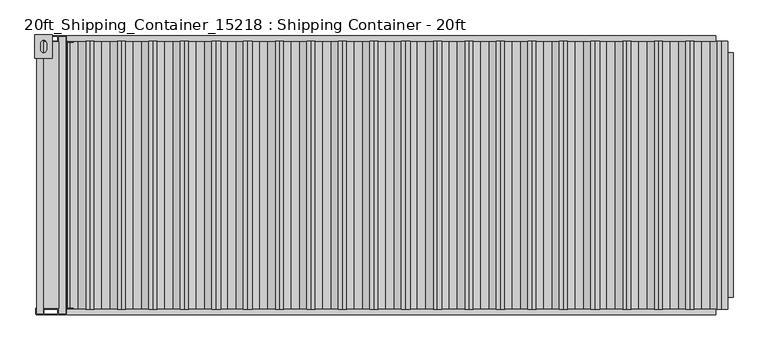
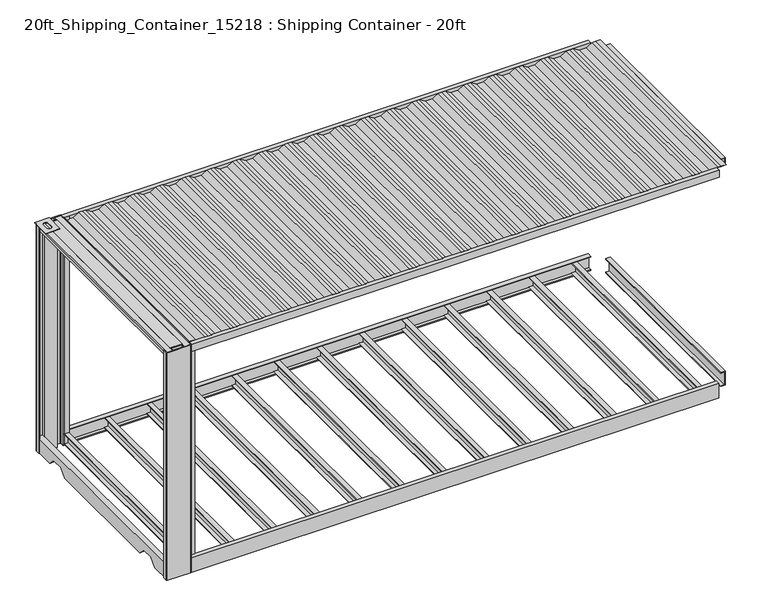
"""IFC4 building model written with IfcOpenShell, lengths in millimetres: proxy geometry, 20ft_Shipping_Container_15218 : Shipping Container - 20ft."""

from ifc_helpers import new_model, si_unit, point, frame, frame_2d, origin, place, context, project, spatial, polyline, circle_curve, trimmed, segment, composite_curve, outline, extrude, source, transform, mapped, element, save


def proxy_20ft_shipping_container_15218_shipping_container_20ft_651b6a02(model_context):
    return source(origin(), model_context, "Body", "SweptSolid", [
        extrude(outline(polyline([(-6102.35, 1225.55), (-5949.95, 1225.55), (-5949.95, 1022.35), (-6102.35, 1022.35), (-6102.35, 1225.55)]), holes=[composite_curve([segment(polyline([(-6051.55, 1151.463327), (-6051.55, 1096.436673)]), True, "CONTINUOUS"), segment(trimmed(circle_curve(frame_2d((-6026.15, 1096.436673)), 25.4), [point((-6051.55, 1096.436673))], [point((-6000.75, 1096.436673))], True, "CARTESIAN"), True, "CONTINUOUS"), segment(polyline([(-6000.75, 1096.436673), (-6000.75, 1151.463327)]), True, "CONTINUOUS"), segment(trimmed(circle_curve(frame_2d((-6026.15, 1151.463327)), 25.4), [point((-6000.75, 1151.463327))], [point((-6051.55, 1151.463327))], True, "CARTESIAN"), True, "CONTINUOUS")], self_intersect=False)]), frame((0.0, 0.0, 2597.15), z_axis=(0.0, 0.0, 1.0), x_axis=(1.0, 0.0, 0.0)), (0.0, 0.0, 1.0), 6.35),
        extrude(outline(polyline([(2597.15, -6086.475), (2571.75, -6086.475), (2571.75, -6073.775), (2520.95, -6073.775), (2520.95, -6029.325), (2597.15, -6029.325), (2597.15, -6086.475)]), holes=[polyline([(2590.8, -6080.125), (2590.8, -6035.675), (2527.3, -6035.675), (2527.3, -6067.425), (2578.1, -6067.425), (2578.1, -6080.125), (2590.8, -6080.125)])]), frame((0.0, -1209.675, 0.0), z_axis=(0.0, 1.0, 0.0), x_axis=(0.0, 0.0, 1.0)), (0.0, 0.0, 1.0), 2419.35),
        extrude(outline(polyline([(136.525, -5773.7287175), (136.525, -5824.5287175), (130.175, -5824.5287175), (130.175, -5780.0787175), (22.225, -5780.0787175), (22.225, -5824.5287175), (15.875, -5824.5287175), (15.875, -5773.7287175), (136.525, -5773.7287175)])), frame((0.0, -1209.675, 0.0), z_axis=(0.0, 1.0, 0.0), x_axis=(0.0, 0.0, 1.0)), (0.0, 0.0, 1.0), 2419.35),
        extrude(outline(polyline([(136.525, -5316.5287175), (136.525, -5367.3287175), (130.175, -5367.3287175), (130.175, -5322.8787175), (22.225, -5322.8787175), (22.225, -5367.3287175), (15.875, -5367.3287175), (15.875, -5316.5287175), (136.525, -5316.5287175)])), frame((0.0, -1209.675, 0.0), z_axis=(0.0, 1.0, 0.0), x_axis=(0.0, 0.0, 1.0)), (0.0, 0.0, 1.0), 2419.35),
        extrude(outline(polyline([(136.525, -4859.3287175), (136.525, -4910.1287175), (130.175, -4910.1287175), (130.175, -4865.6787175), (22.225, -4865.6787175), (22.225, -4910.1287175), (15.875, -4910.1287175), (15.875, -4859.3287175), (136.525, -4859.3287175)])), frame((0.0, -1209.675, 0.0), z_axis=(0.0, 1.0, 0.0), x_axis=(0.0, 0.0, 1.0)), (0.0, 0.0, 1.0), 2419.35),
        extrude(outline(polyline([(136.525, -4402.1287175), (136.525, -4452.9287175), (130.175, -4452.9287175), (130.175, -4408.4787175), (22.225, -4408.4787175), (22.225, -4452.9287175), (15.875, -4452.9287175), (15.875, -4402.1287175), (136.525, -4402.1287175)])), frame((0.0, -1209.675, 0.0), z_axis=(0.0, 1.0, 0.0), x_axis=(0.0, 0.0, 1.0)), (0.0, 0.0, 1.0), 2419.35),
        extrude(outline(polyline([(136.525, -3944.9287175), (136.525, -3995.7287175), (130.175, -3995.7287175), (130.175, -3951.2787175), (22.225, -3951.2787175), (22.225, -3995.7287175), (15.875, -3995.7287175), (15.875, -3944.9287175), (136.525, -3944.9287175)])), frame((0.0, -1209.675, 0.0), z_axis=(0.0, 1.0, 0.0), x_axis=(0.0, 0.0, 1.0)), (0.0, 0.0, 1.0), 2419.35),
        extrude(outline(polyline([(136.525, -3487.7287175), (136.525, -3538.5287175), (130.175, -3538.5287175), (130.175, -3494.0787175), (22.225, -3494.0787175), (22.225, -3538.5287175), (15.875, -3538.5287175), (15.875, -3487.7287175), (136.525, -3487.7287175)])), frame((0.0, -1209.675, 0.0), z_axis=(0.0, 1.0, 0.0), x_axis=(0.0, 0.0, 1.0)), (0.0, 0.0, 1.0), 2419.35),
        extrude(outline(polyline([(136.525, -3030.5287175), (136.525, -3081.3287175), (130.175, -3081.3287175), (130.175, -3036.8787175), (22.225, -3036.8787175), (22.225, -3081.3287175), (15.875, -3081.3287175), (15.875, -3030.5287175), (136.525, -3030.5287175)])), frame((0.0, -1209.675, 0.0), z_axis=(0.0, 1.0, 0.0), x_axis=(0.0, 0.0, 1.0)), (0.0, 0.0, 1.0), 2419.35),
        extrude(outline(polyline([(136.525, -2573.3287175), (136.525, -2624.1287175), (130.175, -2624.1287175), (130.175, -2579.6787175), (22.225, -2579.6787175), (22.225, -2624.1287175), (15.875, -2624.1287175), (15.875, -2573.3287175), (136.525, -2573.3287175)])), frame((0.0, -1209.675, 0.0), z_axis=(0.0, 1.0, 0.0), x_axis=(0.0, 0.0, 1.0)), (0.0, 0.0, 1.0), 2419.35),
        extrude(outline(polyline([(136.525, -2116.1287175), (136.525, -2166.9287175), (130.175, -2166.9287175), (130.175, -2122.4787175), (22.225, -2122.4787175), (22.225, -2166.9287175), (15.875, -2166.9287175), (15.875, -2116.1287175), (136.525, -2116.1287175)])), frame((0.0, -1209.675, 0.0), z_axis=(0.0, 1.0, 0.0), x_axis=(0.0, 0.0, 1.0)), (0.0, 0.0, 1.0), 2419.35),
        extrude(outline(polyline([(136.525, -1658.9287175), (136.525, -1709.7287175), (130.175, -1709.7287175), (130.175, -1665.2787175), (22.225, -1665.2787175), (22.225, -1709.7287175), (15.875, -1709.7287175), (15.875, -1658.9287175), (136.525, -1658.9287175)])), frame((0.0, -1209.675, 0.0), z_axis=(0.0, 1.0, 0.0), x_axis=(0.0, 0.0, 1.0)), (0.0, 0.0, 1.0), 2419.35),
        extrude(outline(polyline([(136.525, -1201.7287175), (136.525, -1252.5287175), (130.175, -1252.5287175), (130.175, -1208.0787175), (22.225, -1208.0787175), (22.225, -1252.5287175), (15.875, -1252.5287175), (15.875, -1201.7287175), (136.525, -1201.7287175)])), frame((0.0, -1209.675, 0.0), z_axis=(0.0, 1.0, 0.0), x_axis=(0.0, 0.0, 1.0)), (0.0, 0.0, 1.0), 2419.35),
        extrude(outline(polyline([(136.525, -744.5287175), (136.525, -795.3287175), (130.175, -795.3287175), (130.175, -750.8787175), (22.225, -750.8787175), (22.225, -795.3287175), (15.875, -795.3287175), (15.875, -744.5287175), (136.525, -744.5287175)])), frame((0.0, -1209.675, 0.0), z_axis=(0.0, 1.0, 0.0), x_axis=(0.0, 0.0, 1.0)), (0.0, 0.0, 1.0), 2419.35),
        extrude(outline(polyline([(136.525, -287.3287175), (136.525, -338.1287175), (130.175, -338.1287175), (130.175, -293.6787175), (22.225, -293.6787175), (22.225, -338.1287175), (15.875, -338.1287175), (15.875, -287.3287175), (136.525, -287.3287175)])), frame((0.0, -1209.675, 0.0), z_axis=(0.0, 1.0, 0.0), x_axis=(0.0, 0.0, 1.0)), (0.0, 0.0, 1.0), 2419.35),
        extrude(outline(polyline([(2597.15, -5895.975), (2597.15, -6029.325), (2546.35, -6029.325), (2546.35, -5895.975), (2597.15, -5895.975)]), holes=[polyline([(2587.625, -5905.5), (2555.875, -5905.5), (2555.875, -6019.8), (2587.625, -6019.8), (2587.625, -5905.5)])]), frame((0.0, -1165.225, 0.0), z_axis=(0.0, 1.0, 0.0), x_axis=(0.0, 0.0, 1.0)), (0.0, 0.0, 1.0), 2330.45),
        extrude(outline(polyline([(2597.15, -5834.0537175), (2597.15, -5895.975), (2520.95, -5895.975), (2520.95, -5834.0537175), (2597.15, -5834.0537175)]), holes=[polyline([(2590.8, -5840.4037175), (2527.3, -5840.4037175), (2527.3, -5889.625), (2590.8, -5889.625), (2590.8, -5840.4037175)])]), frame((0.0, -1209.675, 0.0), z_axis=(0.0, 1.0, 0.0), x_axis=(0.0, 0.0, 1.0)), (0.0, 0.0, 1.0), 2419.35),
        extrude(outline(polyline([(2555.8203507, -5245.546445), (2555.8203507, -5170.1254342), (2593.975, -5106.6254342), (2593.975, -5068.5254342), (2593.975, -5032.9654342), (2555.8203507, -4969.4654342), (2555.8203507, -4894.0444233), (2593.975, -4830.5444233), (2593.975, -4792.4444233), (2593.975, -4756.8844233), (2555.8203507, -4693.3844233), (2555.8203507, -4617.9634125), (2593.975, -4554.4634125), (2593.975, -4516.3634125), (2593.975, -4480.8034125), (2555.8203507, -4417.3034125), (2555.8203507, -4341.8824016), (2593.975, -4278.3824016), (2593.975, -4240.2824016), (2593.975, -4204.7224016), (2555.8203507, -4141.2224016), (2555.8203507, -4065.8013908), (2593.975, -4002.3013908), (2593.975, -3964.2013908), (2593.975, -3928.6413908), (2555.8203507, -3865.1413908), (2555.8203507, -3789.7203799), (2593.975, -3726.2203799), (2593.975, -3688.1203799), (2593.975, -3652.5603799), (2555.8203507, -3589.0603799), (2555.8203507, -3513.6393691), (2593.975, -3450.1393691), (2593.975, -3412.0393691), (2593.975, -3376.4793691), (2555.8203507, -3312.9793691), (2555.8203507, -3237.5583582), (2593.975, -3174.0583582), (2593.975, -3135.9583582), (2593.975, -3100.3983582), (2555.8203507, -3036.8983582), (2555.8203507, -2961.4773474), (2593.975, -2897.9773474), (2593.975, -2859.8773474), (2593.975, -2824.3173474), (2555.8203507, -2760.8173474), (2555.8203507, -2685.3963365), (2593.975, -2621.8963365), (2593.975, -2583.7963365), (2593.975, -2548.2363365), (2555.8203507, -2484.7363365), (2555.8203507, -2409.3153256), (2593.975, -2345.8153256), (2593.975, -2307.7153256), (2593.975, -2272.1553256), (2555.8203507, -2208.6553256), (2555.8203507, -2133.2343148), (2593.975, -2069.7343148), (2593.975, -2031.6343148), (2593.975, -1996.0743148), (2555.8203507, -1932.5743148), (2555.8203507, -1857.1533039), (2593.975, -1793.6533039), (2593.975, -1755.5533039), (2593.975, -1719.9933039), (2555.8203507, -1656.4933039), (2555.8203507, -1581.0722931), (2593.975, -1517.5722931), (2593.975, -1479.4722931), (2593.975, -1443.9122931), (2555.8203507, -1380.4122931), (2555.8203507, -1304.9912822), (2593.975, -1241.4912822), (2593.975, -1203.3912822), (2593.975, -1167.8312822), (2555.8203507, -1104.3312822), (2555.8203507, -1028.9102714), (2593.975, -965.4102714), (2593.975, -927.3102714), (2593.975, -891.7502714), (2555.8203507, -828.2502714), (2555.8203507, -752.8292605), (2593.975, -689.3292605), (2593.975, -651.2292605), (2593.975, -615.6692605), (2555.8203507, -552.1692605), (2555.8203507, -476.7482497), (2593.975, -413.2482497), (2593.975, -375.1482497), (2593.975, -339.5882497), (2555.8203507, -276.0882497), (2555.8203507, -200.6672388), (2593.975, -137.1672388), (2593.975, -99.0672388), (2593.975, -47.625), (2597.15, -47.625), (2597.15, -99.0672388), (2597.15, -138.0477442), (2558.9953507, -201.5477442), (2558.9953507, -275.2077442), (2597.15, -338.7077442), (2597.15, -375.1482497), (2597.15, -414.1287551), (2558.9953507, -477.6287551), (2558.9953507, -551.2887551), (2597.15, -614.7887551), (2597.15, -651.2292605), (2597.15, -690.2097659), (2558.9953507, -753.7097659), (2558.9953507, -827.3697659), (2597.15, -890.8697659), (2597.15, -927.3102714), (2597.15, -966.2907768), (2558.9953507, -1029.7907768), (2558.9953507, -1103.4507768), (2597.15, -1166.9507768), (2597.15, -1203.3912822), (2597.15, -1242.3717877), (2558.9953507, -1305.8717877), (2558.9953507, -1379.5317877), (2597.15, -1443.0317877), (2597.15, -1479.4722931), (2597.15, -1518.4527985), (2558.9953507, -1581.9527985), (2558.9953507, -1655.6127985), (2597.15, -1719.1127985), (2597.15, -1755.5533039), (2597.15, -1794.5338094), (2558.9953507, -1858.0338094), (2558.9953507, -1931.6938094), (2597.15, -1995.1938094), (2597.15, -2031.6343148), (2597.15, -2070.6148202), (2558.9953507, -2134.1148202), (2558.9953507, -2207.7748202), (2597.15, -2271.2748202), (2597.15, -2307.7153256), (2597.15, -2346.6958311), (2558.9953507, -2410.1958311), (2558.9953507, -2483.8558311), (2597.15, -2547.3558311), (2597.15, -2583.7963365), (2597.15, -2622.7768419), (2558.9953507, -2686.2768419), (2558.9953507, -2759.9368419), (2597.15, -2823.4368419), (2597.15, -2859.8773474), (2597.15, -2898.8578528), (2558.9953507, -2962.3578528), (2558.9953507, -3036.0178528), (2597.15, -3099.5178528), (2597.15, -3135.9583582), (2597.15, -3174.9388636), (2558.9953507, -3238.4388636), (2558.9953507, -3312.0988636), (2597.15, -3375.5988636), (2597.15, -3412.0393691), (2597.15, -3451.0198745), (2558.9953507, -3514.5198745), (2558.9953507, -3588.1798745), (2597.15, -3651.6798745), (2597.15, -3688.1203799), (2597.15, -3727.1008853), (2558.9953507, -3790.6008853), (2558.9953507, -3864.2608853), (2597.15, -3927.7608853), (2597.15, -3964.2013908), (2597.15, -4003.1818962), (2558.9953507, -4066.6818962), (2558.9953507, -4140.3418962), (2597.15, -4203.8418962), (2597.15, -4240.2824016), (2597.15, -4279.2629071), (2558.9953507, -4342.7629071), (2558.9953507, -4416.4229071), (2597.15, -4479.9229071), (2597.15, -4516.3634125), (2597.15, -4555.3439179), (2558.9953507, -4618.8439179), (2558.9953507, -4692.5039179), (2597.15, -4756.0039179), (2597.15, -4792.4444233), (2597.15, -4831.4249288), (2558.9953507, -4894.9249288), (2558.9953507, -4968.5849288), (2597.15, -5032.0849288), (2597.15, -5068.5254342), (2597.15, -5107.5059396), (2558.9953507, -5171.0059396), (2558.9953507, -5244.6659396), (2597.15, -5308.1659396), (2597.15, -5344.606445), (2597.15, -5383.5869505), (2558.9953507, -5447.0869505), (2558.9953507, -5520.7469505), (2597.15, -5584.2469505), (2597.15, -5620.6874559), (2597.15, -5659.6679613), (2558.9953507, -5723.1679613), (2558.9953507, -5796.8279613), (2573.7319117, -5821.3537175), (2597.15, -5821.3537175), (2597.15, -5824.5287175), (2571.9355831, -5824.5287175), (2555.8203507, -5797.7084668), (2555.8203507, -5722.2874559), (2593.975, -5658.7874559), (2593.975, -5620.6874559), (2593.975, -5585.1274559), (2555.8203507, -5521.6274559), (2555.8203507, -5446.206445), (2593.975, -5382.706445), (2593.975, -5344.606445), (2593.975, -5309.046445), (2555.8203507, -5245.546445)])), frame((0.0, -1171.575, 0.0), z_axis=(0.0, 1.0, 0.0), x_axis=(0.0, 0.0, 1.0)), (0.0, 0.0, 1.0), 2343.15),
        extrude(outline(polyline([(2597.15, -47.625), (2520.95, -47.625), (2520.95, 0.0), (2597.15, 0.0), (2597.15, -47.625)]), holes=[polyline([(2590.8, -41.275), (2590.8, -6.35), (2527.3, -6.35), (2527.3, -41.275), (2590.8, -41.275)])]), frame((0.0, -1068.4140457, 0.0), z_axis=(0.0, 1.0, 0.0), x_axis=(0.0, 0.0, 1.0)), (0.0, 0.0, 1.0), 2136.8280913),
        extrude(outline(polyline([(1171.575, 2597.15), (1219.2, 2597.15), (1219.2, 2520.95), (1171.575, 2520.95), (1171.575, 2597.15)]), holes=[polyline([(1177.925, 2590.8), (1177.925, 2527.3), (1212.85, 2527.3), (1212.85, 2590.8), (1177.925, 2590.8)])]), frame((-5824.5287175, 0.0, 0.0), z_axis=(1.0, 0.0, 0.0), x_axis=(0.0, 1.0, 0.0)), (0.0, 0.0, 1.0), 5673.3990061),
        extrude(outline(polyline([(-1171.575, 2597.15), (-1171.575, 2520.95), (-1219.2, 2520.95), (-1219.2, 2597.15), (-1171.575, 2597.15)]), holes=[polyline([(-1177.925, 2590.8), (-1212.85, 2590.8), (-1212.85, 2527.3), (-1177.925, 2527.3), (-1177.925, 2590.8)])]), frame((-5824.5287175, 0.0, 0.0), z_axis=(1.0, 0.0, 0.0), x_axis=(0.0, 1.0, 0.0)), (0.0, 0.0, 1.0), 5673.3990061),
        extrude(outline(polyline([(6.35, 0.0), (168.2203507, 0.0), (168.2203507, -47.625), (158.6953507, -47.625), (158.6953507, -9.525), (15.875, -9.525), (15.875, -47.625), (6.35, -47.625), (6.35, 0.0)])), frame((0.0, -1068.4140457, 0.0), z_axis=(0.0, 1.0, 0.0), x_axis=(0.0, 0.0, 1.0)), (0.0, 0.0, 1.0), 2136.8280913),
        extrude(outline(polyline([(1209.675, 168.2203507), (1209.675, 6.35), (976.3390457, 6.35), (900.1390457, 82.55), (773.1390457, 82.55), (696.9390457, 6.35), (-701.675, 6.35), (-777.875, 82.55), (-904.875, 82.55), (-981.075, 6.35), (-1209.675, 6.35), (-1209.675, 168.2203507), (1209.675, 168.2203507)])), frame((-6086.475, 0.0, 0.0), z_axis=(1.0, 0.0, 0.0), x_axis=(0.0, 1.0, 0.0)), (0.0, 0.0, 1.0), 57.15),
        extrude(outline(polyline([(1219.2, 6.35), (1171.575, 6.35), (1171.575, 15.875), (1209.675, 15.875), (1209.675, 158.6953507), (1171.575, 158.6953507), (1171.575, 168.2203507), (1219.2, 168.2203507), (1219.2, 6.35)])), frame((-5824.5287175, 0.0, 0.0), z_axis=(1.0, 0.0, 0.0), x_axis=(0.0, 1.0, 0.0)), (0.0, 0.0, 1.0), 5672.1287175),
        extrude(outline(polyline([(-1219.2, 6.35), (-1219.2, 168.2203507), (-1171.575, 168.2203507), (-1171.575, 158.6953507), (-1209.675, 158.6953507), (-1209.675, 15.875), (-1171.575, 15.875), (-1171.575, 6.35), (-1219.2, 6.35)])), frame((-5824.5287175, 0.0, 0.0), z_axis=(1.0, 0.0, 0.0), x_axis=(0.0, 1.0, 0.0)), (0.0, 0.0, 1.0), 5672.1287175),
        extrude(outline(composite_curve([segment(polyline([(-6096.0, -1212.85), (-6096.0, -1165.225), (-6086.475, -1165.225), (-6086.475, -1209.675), (-6029.325, -1209.675), (-6029.325, -1165.225), (-5895.975, -1165.225), (-5895.975, -1209.675), (-5837.2287175, -1209.675)]), True, "CONTINUOUS"), segment(trimmed(circle_curve(frame_2d((-5837.2287175, -1206.5)), 3.175), [point((-5837.2287175, -1209.675))], [point((-5834.0537175, -1206.5))], True, "CARTESIAN"), True, "CONTINUOUS"), segment(polyline([(-5834.0537175, -1206.5), (-5834.0537175, -1174.75)]), True, "CONTINUOUS"), segment(trimmed(circle_curve(frame_2d((-5821.3537175, -1174.75)), 12.7), [point((-5834.0537175, -1174.75))], [point((-5821.3537175, -1162.05))], False, "CARTESIAN"), True, "CONTINUOUS"), segment(polyline([(-5821.3537175, -1162.05), (-5767.3787175, -1162.05), (-5767.3787175, -1171.575), (-5821.3537175, -1171.575)]), True, "CONTINUOUS"), segment(trimmed(circle_curve(frame_2d((-5821.3537175, -1174.75)), 3.175), [point((-5821.3537175, -1171.575))], [point((-5824.5287175, -1174.75))], True, "CARTESIAN"), True, "CONTINUOUS"), segment(polyline([(-5824.5287175, -1174.75), (-5824.5287175, -1206.5)]), True, "CONTINUOUS"), segment(trimmed(circle_curve(frame_2d((-5837.2287175, -1206.5)), 12.7), [point((-5824.5287175, -1206.5))], [point((-5837.2287175, -1219.2))], False, "CARTESIAN"), True, "CONTINUOUS"), segment(polyline([(-5837.2287175, -1219.2), (-6089.65, -1219.2)]), True, "CONTINUOUS"), segment(trimmed(circle_curve(frame_2d((-6089.65, -1212.85)), 6.35), [point((-6089.65, -1219.2))], [point((-6096.0, -1212.85))], False, "CARTESIAN"), True, "CONTINUOUS")], self_intersect=False), holes=[polyline([(-5905.5, -1174.75), (-6019.8, -1174.75), (-6019.8, -1209.675), (-5905.5, -1209.675), (-5905.5, -1174.75)])]), frame((0.0, 0.0, 6.35), z_axis=(0.0, 0.0, 1.0), x_axis=(1.0, 0.0, 0.0)), (0.0, 0.0, 1.0), 2590.8),
        extrude(outline(composite_curve([segment(trimmed(circle_curve(frame_2d((-6089.65, 1212.85)), 6.35), [point((-6096.0, 1212.85))], [point((-6089.65, 1219.2))], False, "CARTESIAN"), True, "CONTINUOUS"), segment(polyline([(-6089.65, 1219.2), (-5837.2287175, 1219.2)]), True, "CONTINUOUS"), segment(trimmed(circle_curve(frame_2d((-5837.2287175, 1206.5)), 12.7), [point((-5837.2287175, 1219.2))], [point((-5824.5287175, 1206.5))], False, "CARTESIAN"), True, "CONTINUOUS"), segment(polyline([(-5824.5287175, 1206.5), (-5824.5287175, 1174.75)]), True, "CONTINUOUS"), segment(trimmed(circle_curve(frame_2d((-5821.3537175, 1174.75)), 3.175), [point((-5824.5287175, 1174.75))], [point((-5821.3537175, 1171.575))], True, "CARTESIAN"), True, "CONTINUOUS"), segment(polyline([(-5821.3537175, 1171.575), (-5767.3787175, 1171.575), (-5767.3787175, 1162.05), (-5821.3537175, 1162.05)]), True, "CONTINUOUS"), segment(trimmed(circle_curve(frame_2d((-5821.3537175, 1174.75)), 12.7), [point((-5821.3537175, 1162.05))], [point((-5834.0537175, 1174.75))], False, "CARTESIAN"), True, "CONTINUOUS"), segment(polyline([(-5834.0537175, 1174.75), (-5834.0537175, 1206.5)]), True, "CONTINUOUS"), segment(trimmed(circle_curve(frame_2d((-5837.2287175, 1206.5)), 3.175), [point((-5834.0537175, 1206.5))], [point((-5837.2287175, 1209.675))], True, "CARTESIAN"), True, "CONTINUOUS"), segment(polyline([(-5837.2287175, 1209.675), (-5895.975, 1209.675), (-5895.975, 1165.225), (-6029.325, 1165.225), (-6029.325, 1209.675), (-6086.475, 1209.675), (-6086.475, 1165.225), (-6096.0, 1165.225), (-6096.0, 1212.85)]), True, "CONTINUOUS")], self_intersect=False), holes=[polyline([(-5905.5, 1174.75), (-5905.5, 1209.675), (-6019.8, 1209.675), (-6019.8, 1174.75), (-5905.5, 1174.75)])]), frame((0.0, 0.0, 6.35), z_axis=(0.0, 0.0, 1.0), x_axis=(1.0, 0.0, 0.0)), (0.0, 0.0, 1.0), 2590.8),
    ])


if __name__ == "__main__":
    model = new_model("IFC4")
    model_context = context("Model", 3, world=origin())
    ifc_project = project(units=[si_unit("LENGTHUNIT", "METRE", prefix="MILLI")], contexts=[model_context])
    site = spatial("IfcSite", under=ifc_project)
    building = spatial("IfcBuilding", under=site)
    placement = place(None, origin())
    proxy_20ft_shipping_container_15218_shipping_container_20ft_shape = proxy_20ft_shipping_container_15218_shipping_container_20ft_651b6a02(model_context)
    element("IfcBuildingElementProxy", 1, Name="20ft_Shipping_Container_15218 : Shipping Container - 20ft", ObjectType="20ft_Shipping_Container_15218 : Shipping Container - 20ft", at=placement, inside=building, context=model_context, shape_type="MappedRepresentation", body=[
        mapped(proxy_20ft_shipping_container_15218_shipping_container_20ft_shape, transform((0.0, 0.0, 0.0), x_axis=(1.0, 0.0, 0.0), y_axis=(0.0, 1.0, 0.0), z_axis=(0.0, 0.0, 1.0))),
    ])
    save(model, "model.ifc")
